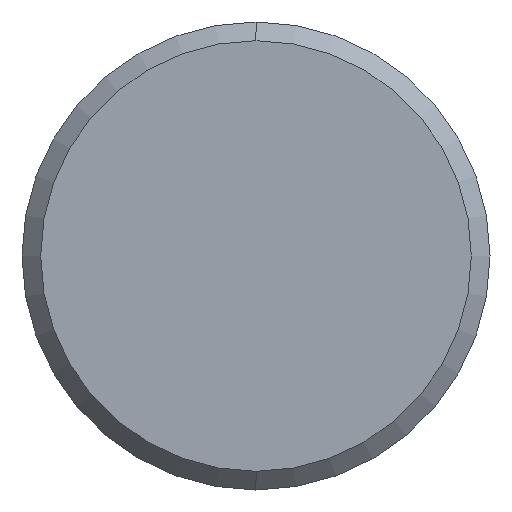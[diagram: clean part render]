
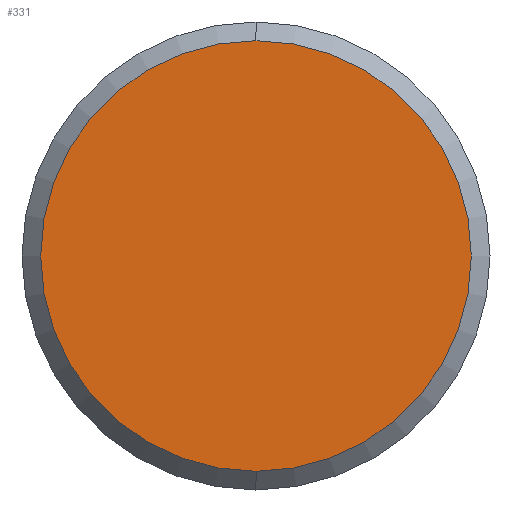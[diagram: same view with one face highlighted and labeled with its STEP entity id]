
A CAD part, left-side view. The second image highlights one B-rep face of the part: STEP entity #331.
In plain terms, the highlighted planar face has unit normal (-1, 0, 0).
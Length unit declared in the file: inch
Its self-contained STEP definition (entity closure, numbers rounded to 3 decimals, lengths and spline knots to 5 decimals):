
#105 = CIRCLE ( 'NONE', #1397, 0.1725 ) ;
#319 = AXIS2_PLACEMENT_3D ( 'NONE', #2556, #3109, #695 ) ;
#331 = ADVANCED_FACE ( 'NONE', ( #3222 ), #1990, .F. ) ;
#695 = DIRECTION ( 'NONE',  ( 0., 0., -1. ) ) ;
#807 = AXIS2_PLACEMENT_3D ( 'NONE', #1415, #3286, #1454 ) ;
#940 = VERTEX_POINT ( 'NONE', #1246 ) ;
#1127 = EDGE_CURVE ( 'NONE', #940, #2508, #2452, .T. ) ;
#1246 = CARTESIAN_POINT ( 'NONE',  ( 0., 0., -0.1725 ) ) ;
#1397 = AXIS2_PLACEMENT_3D ( 'NONE', #2693, #2662, #1610 ) ;
#1415 = CARTESIAN_POINT ( 'NONE',  ( 0., 0., 0. ) ) ;
#1430 = CARTESIAN_POINT ( 'NONE',  ( 0., 0., 0.1725 ) ) ;
#1454 = DIRECTION ( 'NONE',  ( 0., 0., -1. ) ) ;
#1610 = DIRECTION ( 'NONE',  ( 0., 0., -1. ) ) ;
#1990 = PLANE ( 'NONE',  #807 ) ;
#2443 = ORIENTED_EDGE ( 'NONE', *, *, #1127, .T. ) ;
#2452 = CIRCLE ( 'NONE', #319, 0.1725 ) ;
#2508 = VERTEX_POINT ( 'NONE', #1430 ) ;
#2556 = CARTESIAN_POINT ( 'NONE',  ( 0., 0., 0. ) ) ;
#2662 = DIRECTION ( 'NONE',  ( -1., 0., 0. ) ) ;
#2693 = CARTESIAN_POINT ( 'NONE',  ( 0., 0., 0. ) ) ;
#2906 = EDGE_LOOP ( 'NONE', ( #2443, #3051 ) ) ;
#3051 = ORIENTED_EDGE ( 'NONE', *, *, #3410, .T. ) ;
#3109 = DIRECTION ( 'NONE',  ( -1., 0., 0. ) ) ;
#3222 = FACE_OUTER_BOUND ( 'NONE', #2906, .T. ) ;
#3286 = DIRECTION ( 'NONE',  ( 1., 0., 0. ) ) ;
#3410 = EDGE_CURVE ( 'NONE', #2508, #940, #105, .T. ) ;
